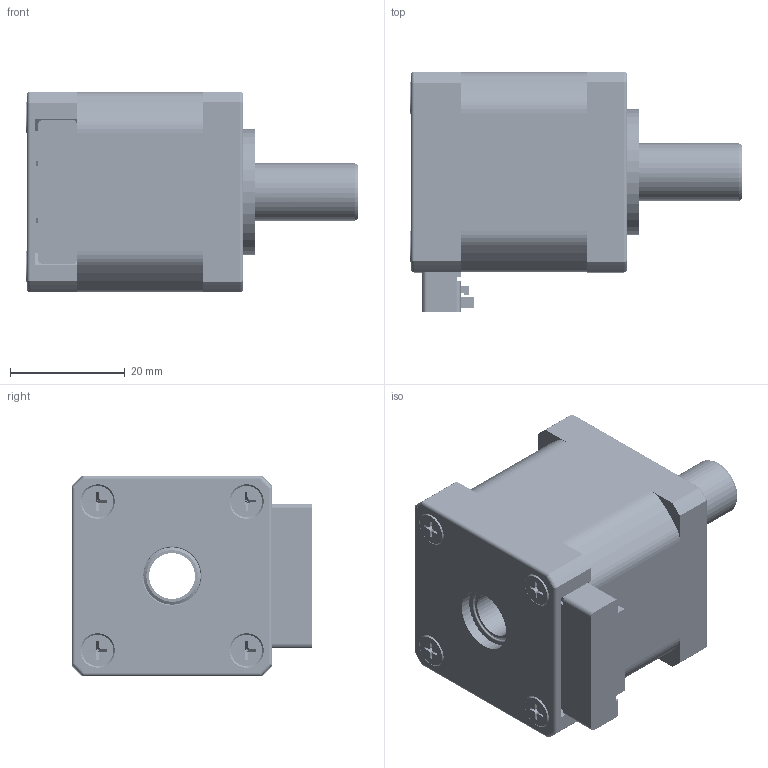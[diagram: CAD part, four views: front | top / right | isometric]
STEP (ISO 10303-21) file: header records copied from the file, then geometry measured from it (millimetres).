
FILE_DESCRIPTION(/* description */ (''),/* implementation_level */ '2;1');
FILE_NAME(/* name */ 'C:\Users\raffaele\Downloads\Projects\E&D\ipt-to-step-conversion\35STC-H.stp',/* time_stamp */ '2021-02-10T15:35:31+01:00',/* author */ ('AOM'),/* organization */ (''),/* preprocessor_version */ 'ST-DEVELOPER v18',/* originating_system */ 'Autodesk Inventor 2020',/* authorisation */ '');
FILE_SCHEMA (('AUTOMOTIVE_DESIGN { 1 0 10303 214 3 1 1 }'));
Products named in the file (1): 35STC-H
Bounding box: 57.95 x 41.95 x 35 mm (x, y, z)
Volume: 32447.3 mm3; surface area: 73042.9 mm2
Topology: 68 solids, 74 shells, 17976 faces, 53189 edges, 35473 vertices
Faces by surface type: cylinder 10342, plane 7583, cone 23, torus 20, sphere 8
Full cylindrical faces by diameter (mm): 1 x6, 1.2 x16, 1.5 x242, 2.5 x8, 2.6 x4, 3 x4, 3.2 x8, 5.5 x4, 8 x1, 10 x53, 10.5 x1, 11 x2, 11.5 x4, 13 x2, 15 x2, 17 x4, 18 x1, 19 x6, 20 x1, 21.9 x2, 22 x1
Entity records: 628554 total; most frequent: DIRECTION 110360, CARTESIAN_POINT 107151, ORIENTED_EDGE 106339, EDGE_CURVE 53181, AXIS2_PLACEMENT_3D 39226, VERTEX_POINT 35473, LINE 31908, VECTOR 31908
